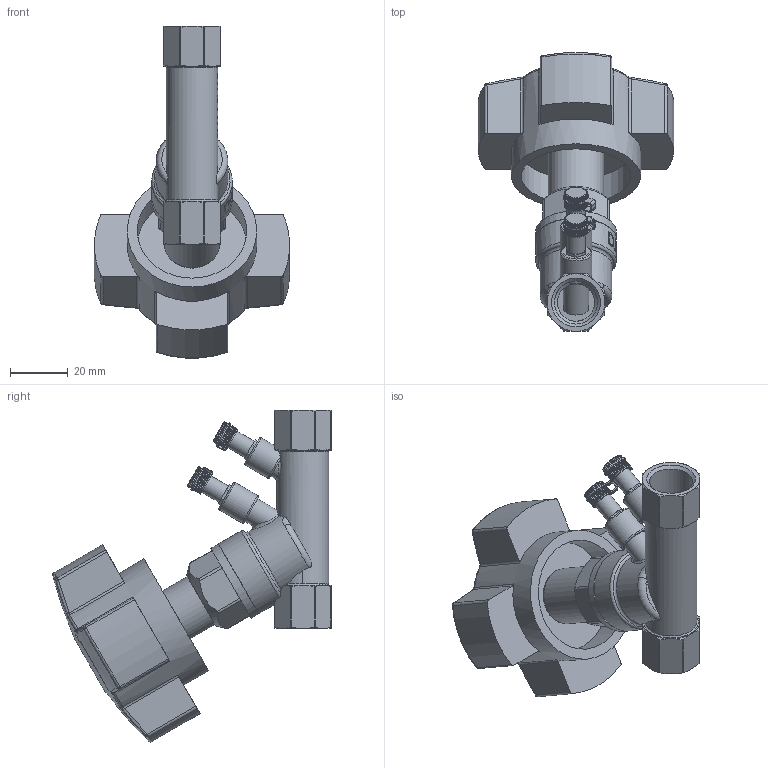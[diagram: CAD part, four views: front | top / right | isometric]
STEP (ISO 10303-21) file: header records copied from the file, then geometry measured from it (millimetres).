
FILE_DESCRIPTION(('STEP AP242'), '1');
FILE_NAME('VB0000P-T Êëàïàí áàëàíñèðîâî÷íûé Äó15 Ðó16', '2026-04-26T17:17:50', ('R2D2'), (''), 'C3D Converter', 'C3D Toolkit', '');
FILE_SCHEMA(('AP242_MANAGED_MODEL_BASED_3D_ENGINEERING_MIM_LF { 1 0 10303 442 1 1 4 }'));
Length unit declared in the file: millimetre
Products named in the file (1): VB0000P-T
Bounding box: 67.83 x 96.97 x 115.48 mm (x, y, z)
Volume: 108113 mm3; surface area: 27552.9 mm2
Topology: 1 solids, 3 shells, 1257 faces, 3331 edges, 2119 vertices
Faces by surface type: plane 903, extrusion 116, cylinder 114, bspline 45, cone 44, torus 27, sphere 8
Full cylindrical faces by diameter (mm): 6.5 x2, 9 x1, 11 x2, 13 x1, 15 x3, 17.157 x1, 18 x2, 19.261 x1, 28 x2, 38 x1, 45 x1
Entity records: 65557 total; most frequent: CARTESIAN_POINT 25949, ORIENTED_EDGE 6588, DIRECTION 5188, EDGE_CURVE 3294, VECTOR 2130, VERTEX_POINT 2118, LINE 2014, AXIS2_PLACEMENT_3D 1529
